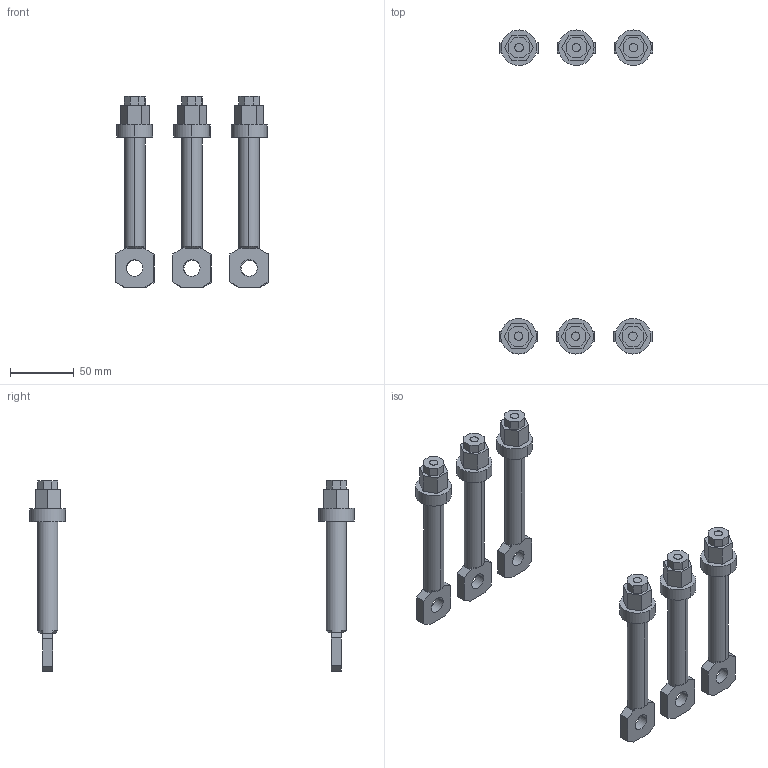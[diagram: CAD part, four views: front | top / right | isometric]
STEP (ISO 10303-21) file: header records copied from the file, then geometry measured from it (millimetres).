
FILE_DESCRIPTION (( 'STEP AP214' ), '1' );
FILE_NAME ('ÊÇÏ OptiMat D400, D630 6 øò äëèííûå ãîðèçîíòàëüíûå.STEP', '2023-04-04T02:30:54', ( '' ), ( '' ), 'SwSTEP 2.0', 'SolidWorks 2018', '' );
FILE_SCHEMA (( 'AUTOMOTIVE_DESIGN' ));
Length unit declared in the file: millimetre
Products named in the file (2): ÊÇÏ OptiMat D400, D630 6 øò äëèííûå ãîðèçîíòàëüíûå; ÊÇÏ_„«¨­­ë©
Assembly tree (6 placements, depth 2):
  ÊÇÏ OptiMat D400, D630 6 øò äëèííûå ãîðèçîíòàëüíûå
    ÊÇÏ_„«¨­­ë©  x6
Bounding box: 120.38 x 255 x 150.5 mm (x, y, z)
Volume: 208542.8 mm3; surface area: 65117.2 mm2
Topology: 6 solids, 6 shells, 276 faces, 696 edges, 462 vertices
Faces by surface type: plane 198, cylinder 60, cone 18
Entity records: 1493 total; most frequent: CARTESIAN_POINT 260, DIRECTION 249, ORIENTED_EDGE 232, EDGE_CURVE 116, VECTOR 85, LINE 85, AXIS2_PLACEMENT_3D 82, VERTEX_POINT 77
